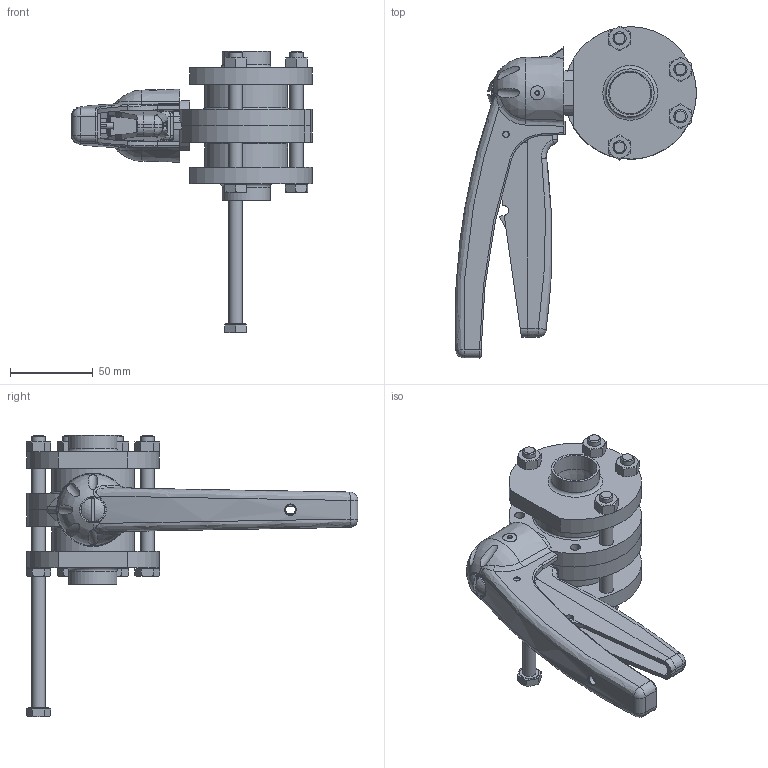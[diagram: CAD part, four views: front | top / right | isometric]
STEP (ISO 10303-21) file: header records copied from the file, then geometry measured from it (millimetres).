
FILE_DESCRIPTION(/* description */ ('VVF VALV.FARF.DN25(29X1.5) WAF4 EPDM 316 LEVA 5POS.'),/* implementation_level */ '2;1');
FILE_NAME(/* name */ 'C:\_DED_PWS\MARZ-M\DB\B\EBA\BEBAC6025BEAA-00^SAGOMA.step',/* time_stamp */ '2024-04-18T14:11:21+02:00',/* author */ (''),/* organization */ (''),/* preprocessor_version */ 'ST-DEVELOPER v18.1',/* originating_system */ 'Autodesk Inventor 2022',/* authorisation */ '');
FILE_SCHEMA (('CONFIG_CONTROL_DESIGN'));
Length unit declared in the file: millimetre
Products named in the file (6): BEBAC6025BEAA; MEZZO-COR-DN025-WAFER-4; FLANGIA-DN29x1.5-WAFER-4; UNI 5588 - M8; Maniglia-5-posizioni-nuova-versione finale 01-2008- 25 - - 65; UNI 5739 - M8 x 80
Assembly tree (14 placements, depth 2):
  BEBAC6025BEAA
    FLANGIA-DN29x1.5-WAFER-4  x2
    MEZZO-COR-DN025-WAFER-4  x2
    UNI 5588 - M8  x4
    UNI 5739 - M8 x 80  x5
    Maniglia-5-posizioni-nuova-versione finale 01-2008- 25 - - 65
Bounding box: 145.39 x 200.39 x 170 mm (x, y, z)
Volume: 360713 mm3; surface area: 128319.9 mm2
Topology: 14 solids, 15 shells, 651 faces, 1588 edges, 992 vertices
Faces by surface type: plane 288, cylinder 130, cone 121, bspline 81, sphere 18, torus 13
Full cylindrical faces by diameter (mm): 4 x3, 6 x2, 6.2 x4, 6.5 x1, 6.647 x4, 8 x5, 8.5 x12, 11.63 x5, 13 x1, 14.5 x1, 26 x2, 29 x2, 50 x2
Entity records: 23857 total; most frequent: CARTESIAN_POINT 12296, ORIENTED_EDGE 2422, DIRECTION 2102, EDGE_CURVE 1211, VERTEX_POINT 764, AXIS2_PLACEMENT_3D 763, LINE 576, VECTOR 576
